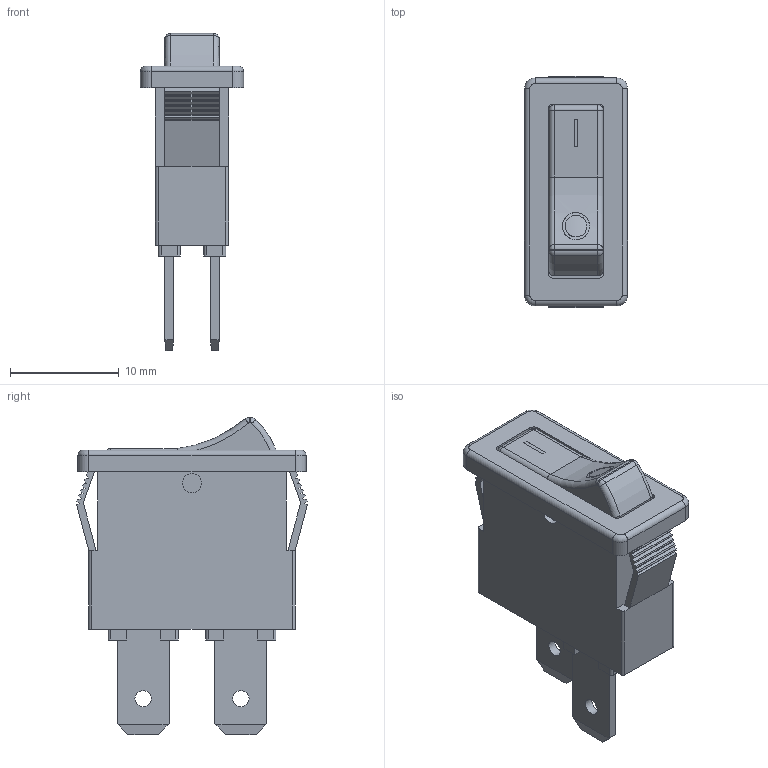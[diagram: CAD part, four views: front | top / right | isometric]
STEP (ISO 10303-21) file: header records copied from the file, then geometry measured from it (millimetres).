
FILE_DESCRIPTION(/* description */ ('Unknown'),/* implementation_level */ '2;1');
FILE_NAME(/* name */ 'H8800VAAAB',/* time_stamp */ '2025-10-08T15:38:23+02:00',/* author */ ('Unknown'),/* organization */ ('Unknown'),/* preprocessor_version */ 'ST-DEVELOPER v19.4',/* originating_system */ 'Solid Edge',/* authorisation */ 'Unknown');
FILE_SCHEMA (('AUTOMOTIVE_DESIGN {1 0 10303 214 3 1 1}'));
Length unit declared in the file: millimetre
Products named in the file (1): H8800VAAAB
Bounding box: 9.5 x 21.27 x 29.2 mm (x, y, z)
Volume: 2356.3 mm3; surface area: 1849.1 mm2
Topology: 1 solids, 1 shells, 182 faces, 491 edges, 315 vertices
Faces by surface type: plane 121, cylinder 45, torus 14, sphere 2
Full cylindrical faces by diameter (mm): 1.5 x2, 1.75 x2, 2 x1, 2.5 x1
Entity records: 6918 total; most frequent: CARTESIAN_POINT 1024, ORIENTED_EDGE 956, DIRECTION 938, EDGE_CURVE 478, LINE 372, VECTOR 372, VERTEX_POINT 312, AXIS2_PLACEMENT_3D 283
